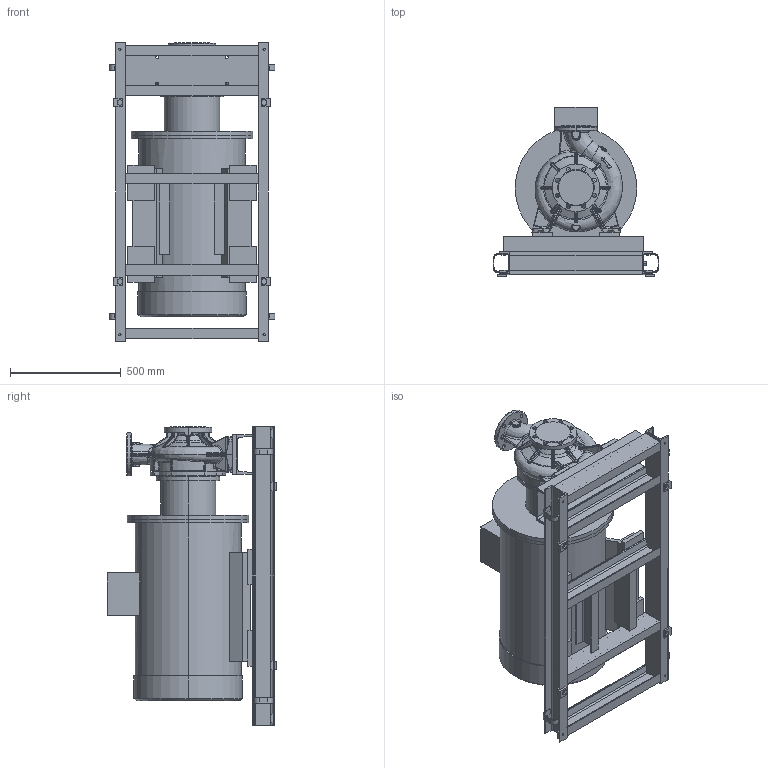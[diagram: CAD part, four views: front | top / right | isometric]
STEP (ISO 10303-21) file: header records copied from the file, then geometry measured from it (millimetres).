
FILE_DESCRIPTION (( 'STEP AP203' ), '1' );
FILE_NAME ('KRM100-80-250-2-90.STEP', '2026-08-25T09:32:14', ( '' ), ( '' ), 'SwSTEP 2.0', 'SolidWorks 2016', '' );
FILE_SCHEMA (( 'CONFIG_CONTROL_DESIGN' ));
Length unit declared in the file: millimetre
Products named in the file (1): KRM100-80-250-2-90
Bounding box: 750 x 765 x 1350 mm (x, y, z)
Volume: 202831733 mm3; surface area: 6912104.5 mm2
Topology: 41 solids, 41 shells, 1576 faces, 3835 edges, 2313 vertices
Faces by surface type: bspline 481, plane 454, cylinder 415, torus 112, cone 75, sphere 39
Entity records: 84477 total; most frequent: CARTESIAN_POINT 51094, ORIENTED_EDGE 7590, DIRECTION 6156, EDGE_CURVE 3795, AXIS2_PLACEMENT_3D 2417, VERTEX_POINT 2313, EDGE_LOOP 1670, ADVANCED_FACE 1576
